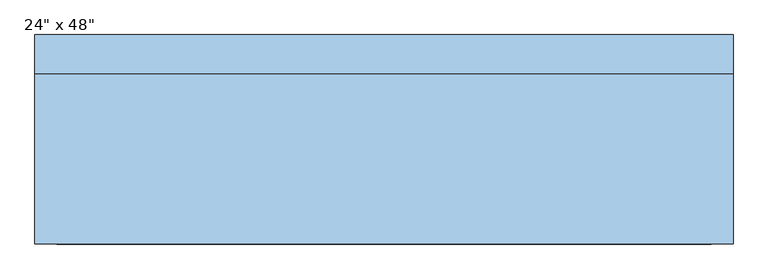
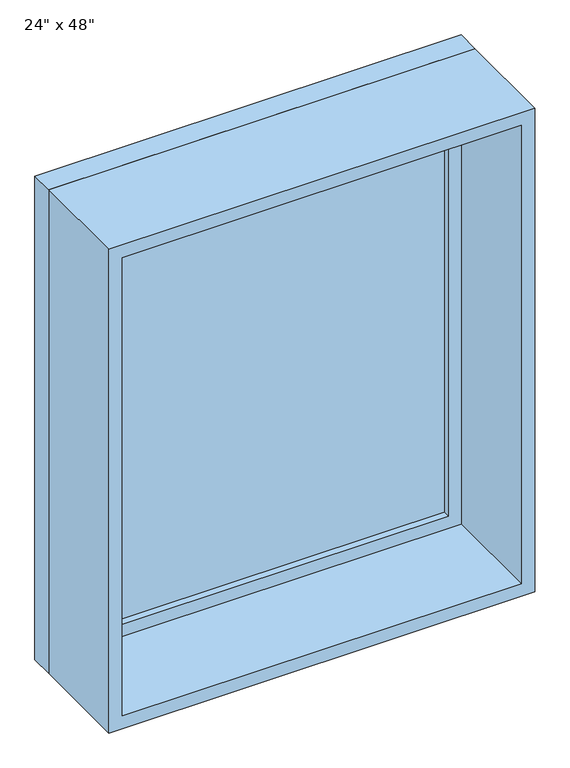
"""IFC4 building model written with IfcOpenShell, lengths in millimetres: window geometry."""

import ifcopenshell
import ifcopenshell.guid

model = None  # the IFC model being written
_history = None  # IfcOwnerHistory: only IFC2X3 demands one
_inside = {}  # id of a spatial element -> (the spatial element, [elements in it])
_under = {}  # id of a project, library or spatial element -> (it, [spatial elements below it])
_declared = {}  # id of a project -> (the project, [libraries it declares])
_typed = {}  # id of a type object -> (the type object, [elements of that type])
_made_of = {}  # id of a material, layer set ... -> (it, [elements and type objects made of it])


def new_model(schema):
    """Start an empty IFC model of exactly this schema.

    Asked for "IFC4X3", IfcOpenShell would pick the latest addendum, in which some entities
    have other attributes; the version numbers below select the first issue.
    IFC2X3 requires an IfcOwnerHistory on every rooted entity: one is made here for all.
    """
    global model, _history
    if schema == "IFC4X3":
        model = ifcopenshell.file(schema_version=(4, 3, 0, 0))
    else:
        model = ifcopenshell.file(schema=schema)
    _inside.clear()
    _under.clear()
    _declared.clear()
    _typed.clear()
    _made_of.clear()
    _history = None
    if model.schema == "IFC2X3":
        org = make("IfcOrganization", Name="unknown")
        user = make(
            "IfcPersonAndOrganization",
            ThePerson=make("IfcPerson", FamilyName="unknown"),
            TheOrganization=org,
        )
        app = make(
            "IfcApplication",
            ApplicationDeveloper=org,
            Version="unknown",
            ApplicationFullName="unknown",
            ApplicationIdentifier="unknown",
        )
        _history = make(
            "IfcOwnerHistory",
            OwningUser=user,
            OwningApplication=app,
            ChangeAction="ADDED",
            CreationDate=0,
        )
    return model


def make(cls, **values):
    """One entity of the class cls with the attributes given. An attribute that is None is left unset."""
    return model.create_entity(
        cls, **{name: value for name, value in values.items() if value is not None}
    )


def rooted(cls, **values):
    """An entity with a GlobalId (a new one), such as an element, a storey or a relation."""
    return make(cls, GlobalId=ifcopenshell.guid.new(), OwnerHistory=_history, **values)


def si_unit(unit_type, name, prefix=None):
    """IfcSIUnit, for example si_unit("LENGTHUNIT", "METRE", prefix="MILLI")."""
    return make("IfcSIUnit", UnitType=unit_type, Prefix=prefix, Name=name)


def assignment(units):
    """IfcUnitAssignment: the units of a project."""
    return None if units is None else make("IfcUnitAssignment", Units=units)


def point(xyz):
    """IfcCartesianPoint."""
    return None if xyz is None else make("IfcCartesianPoint", Coordinates=xyz)


def direction(xyz):
    """IfcDirection."""
    return None if xyz is None else make("IfcDirection", DirectionRatios=xyz)


def frame(location, z_axis=None, x_axis=None):
    """IfcAxis2Placement3D, a coordinate frame: its origin and axes. An axis left out is left unset."""
    return make(
        "IfcAxis2Placement3D",
        Location=point(location),
        Axis=direction(z_axis),
        RefDirection=direction(x_axis),
    )


def origin():
    """The frame at (0, 0, 0) with its axes left unset."""
    return frame((0.0, 0.0, 0.0))


def place(relative_to, where):
    """IfcLocalPlacement: puts the frame where relative to a parent placement (None: the world)."""
    return make(
        "IfcLocalPlacement", PlacementRelTo=relative_to, RelativePlacement=where
    )


def context(
    kind, dimensions, precision=None, world=None, true_north=None, identifier=None
):
    """IfcGeometricRepresentationContext, for example the 3D "Model" context."""
    return make(
        "IfcGeometricRepresentationContext",
        ContextIdentifier=identifier,
        ContextType=kind,
        CoordinateSpaceDimension=dimensions,
        Precision=precision,
        WorldCoordinateSystem=world,
        TrueNorth=true_north,
    )


def project(units=None, contexts=None):
    """IfcProject with its units and contexts."""
    return rooted(
        "IfcProject",
        Name="project",
        RepresentationContexts=contexts,
        UnitsInContext=assignment(units),
    )


def spatial(cls, under=None, at=None, **own):
    """A site, building, storey or space (cls), placed at a placement, below another one or the project."""
    s = rooted(cls, ObjectPlacement=at, **own)
    if under is not None:
        _under.setdefault(under.id(), (under, []))[1].append(s)
    return s


def polyline(points):
    """IfcPolyline through the points."""
    return make("IfcPolyline", Points=[point(p) for p in points])


def outline(outer, holes=None, kind="AREA"):
    """IfcArbitraryClosedProfileDef: a profile drawn as a closed curve; with holes, ...WithVoids."""
    if holes is None:
        return make("IfcArbitraryClosedProfileDef", ProfileType=kind, OuterCurve=outer)
    return make(
        "IfcArbitraryProfileDefWithVoids",
        ProfileType=kind,
        OuterCurve=outer,
        InnerCurves=holes,
    )


def extrude(swept, where, along, depth):
    """IfcExtrudedAreaSolid: the profile swept, set in the frame where, extruded along a direction by depth."""
    return make(
        "IfcExtrudedAreaSolid",
        SweptArea=swept,
        Position=where,
        ExtrudedDirection=direction(along),
        Depth=depth,
    )


def shape(context_of_items, identifier, shape_type, items):
    """IfcShapeRepresentation: the items that make up one representation, for example the "Body"."""
    return make(
        "IfcShapeRepresentation",
        ContextOfItems=context_of_items,
        RepresentationIdentifier=identifier,
        RepresentationType=shape_type,
        Items=items,
    )


def source(mapping_origin, context_of_items, identifier, shape_type, items):
    """IfcRepresentationMap: a shape defined once, which mapped items show again and again."""
    return make(
        "IfcRepresentationMap",
        MappingOrigin=mapping_origin,
        MappedRepresentation=shape(context_of_items, identifier, shape_type, items),
    )


def transform(
    local_origin,
    x_axis=None,
    y_axis=None,
    z_axis=None,
    scale=None,
    scale2=None,
    scale3=None,
    uniform=True,
):
    """IfcCartesianTransformationOperator3D, or its non-uniform kind. x_axis, y_axis, z_axis: its Axis1, 2, 3."""
    if uniform:
        return make(
            "IfcCartesianTransformationOperator3D",
            Axis1=direction(x_axis),
            Axis2=direction(y_axis),
            LocalOrigin=point(local_origin),
            Scale=scale,
            Axis3=direction(z_axis),
        )
    return make(
        "IfcCartesianTransformationOperator3DnonUniform",
        Axis1=direction(x_axis),
        Axis2=direction(y_axis),
        LocalOrigin=point(local_origin),
        Scale=scale,
        Axis3=direction(z_axis),
        Scale2=scale2,
        Scale3=scale3,
    )


def mapped(mapping_source, mapping_target):
    """IfcMappedItem: shows the shape of a source again, moved by a transform."""
    return make(
        "IfcMappedItem", MappingSource=mapping_source, MappingTarget=mapping_target
    )


def made_of(thing, what):
    """Note that an element or type object is made of a material, layer set ...; save() writes the relation."""
    if what is not None:
        _made_of.setdefault(what.id(), (what, []))[1].append(thing)
    return thing


def element(
    cls,
    number,
    at=None,
    inside=None,
    cuts=None,
    type_object=None,
    material=None,
    context=None,
    identifier="Body",
    shape_type=None,
    held_by="IfcProductDefinitionShape",
    body=None,
    shapes=None,
    **own,
):
    """One element of the class cls, such as IfcWall. Its Tag is "e" and its number.

    at: its placement. inside: the storey or other place that contains it. cuts: it is an
    opening in that element (IfcRelVoidsElement). A single representation is given by context,
    identifier, shape_type and body (its items); several are given by shapes. held_by: the class
    of the entity that holds the representations. save() writes the other relations.
    """
    e = rooted(cls, Tag="e%d" % number, ObjectPlacement=at, **own)
    if body is not None:
        shapes = [shape(context, identifier, shape_type, body)]
    if shapes is not None:
        e.Representation = make(held_by, Representations=shapes)
    if inside is not None:
        _inside.setdefault(inside.id(), (inside, []))[1].append(e)
    if cuts is not None:
        rooted(
            "IfcRelVoidsElement", RelatingBuildingElement=cuts, RelatedOpeningElement=e
        )
    if type_object is not None:
        _typed.setdefault(type_object.id(), (type_object, []))[1].append(e)
    return made_of(e, material)


def aggregate(whole, parts):
    """IfcRelAggregates: a whole, such as a stair, and the parts it consists of."""
    return rooted("IfcRelAggregates", RelatingObject=whole, RelatedObjects=parts)


def save(model, path):
    """Write the relations noted so far, then the file.

    IfcRelAggregates (storeys below a building ...), IfcRelContainedInSpatialStructure (elements
    in a storey), IfcRelDefinesByType, IfcRelAssociatesMaterial and IfcRelDeclares: one each for
    every whole, place, type object, material and project.
    """
    for whole, parts in _under.values():
        aggregate(whole, parts)
    for where, things in _inside.values():
        rooted(
            "IfcRelContainedInSpatialStructure",
            RelatedElements=things,
            RelatingStructure=where,
        )
    for kind, things in _typed.values():
        rooted("IfcRelDefinesByType", RelatedObjects=things, RelatingType=kind)
    for what, things in _made_of.values():
        rooted("IfcRelAssociatesMaterial", RelatedObjects=things, RelatingMaterial=what)
    for by, libraries in _declared.values():
        rooted("IfcRelDeclares", RelatingContext=by, RelatedDefinitions=libraries)
    model.write(path)


def window_879c5c3a(model_context):
    return source(origin(), model_context, "Body", "SweptSolid", [
        extrude(outline(polyline([(2114.6, -489.0), (933.4, -489.0), (933.4, 489.0), (2114.6, 489.0), (2114.6, -489.0)]), holes=[polyline([(2070.6, -445.0), (2070.6, 445.0), (977.4, 445.0), (977.4, -445.0), (2070.6, -445.0)])]), frame((0.0, 108.7, 0.0), z_axis=(0.0, 1.0, 0.0), x_axis=(0.0, 0.0, 1.0)), (0.0, 0.0, 1.0), 44.0),
        extrude(outline(polyline([(2133.6, -508.0), (914.4, -508.0), (914.4, 508.0), (2133.6, 508.0), (2133.6, -508.0)]), holes=[polyline([(2114.6, -489.0), (2114.6, 489.0), (933.4, 489.0), (933.4, -489.0), (2114.6, -489.0)])]), frame((0.0, 108.7, 0.0), z_axis=(0.0, 1.0, 0.0), x_axis=(0.0, 0.0, 1.0)), (0.0, 0.0, 1.0), 56.7),
        extrude(outline(polyline([(2133.6, -508.0), (914.4, -508.0), (914.4, 508.0), (2133.6, 508.0), (2133.6, -508.0)]), holes=[polyline([(2101.6, -476.0), (2101.6, 476.0), (946.4, 476.0), (946.4, -476.0), (2101.6, -476.0)])]), frame((0.0, -139.4, 0.0), z_axis=(0.0, 1.0, 0.0), x_axis=(0.0, 0.0, 1.0)), (0.0, 0.0, 1.0), 248.1),
        extrude(outline(polyline([(-445.0, 136.7), (445.0, 136.7), (445.0, 124.7), (-445.0, 124.7), (-445.0, 136.7)])), frame((0.0, 0.0, 977.4), z_axis=(0.0, 0.0, 1.0), x_axis=(1.0, 0.0, 0.0)), (0.0, 0.0, 1.0), 1093.2),
    ])


if __name__ == "__main__":
    model = new_model("IFC4")
    model_context = context("Model", 3, world=origin())
    ifc_project = project(units=[si_unit("LENGTHUNIT", "METRE", prefix="MILLI")], contexts=[model_context])
    site = spatial("IfcSite", under=ifc_project)
    building = spatial("IfcBuilding", under=site)
    placement = place(None, origin())
    window_shape = window_879c5c3a(model_context)
    element("IfcWindow", 1, ObjectType="Planitar-Fixed : 24\" x 48\"", at=placement, inside=building, context=model_context, shape_type="MappedRepresentation", body=[
        mapped(window_shape, transform((0.0, 0.0, 0.0), x_axis=(1.0, 0.0, 0.0), y_axis=(0.0, 1.0, 0.0), z_axis=(0.0, 0.0, 1.0))),
    ])
    save(model, "model.ifc")
